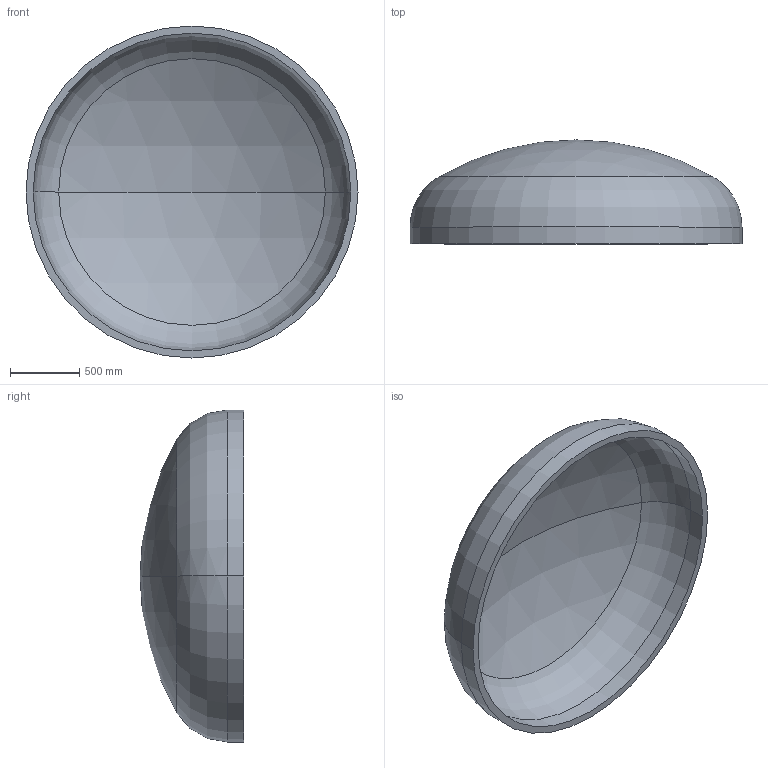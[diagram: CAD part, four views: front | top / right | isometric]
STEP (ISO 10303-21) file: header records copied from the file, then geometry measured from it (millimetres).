
FILE_DESCRIPTION (( 'STEP AP203' ), '1' );
FILE_NAME ('DIN 28013 Korbbogenform_-_Boden DIN 28013 - 2400 x 120 - I - s=52.step', '2016-07-01T15:27:18', ( '' ), ( '' ), 'SwSTEP 2.0', 'SolidWorks 2013', '' );
FILE_SCHEMA (( 'CONFIG_CONTROL_DESIGN' ));
Length unit declared in the file: millimetre
Products named in the file (1): DIN 28013 Korbbogenform_-_Boden DIN 28013 - 2400 x 120 - I - s=52
Bounding box: 2400 x 751.4 x 2400 mm (x, y, z)
Volume: 362753346.3 mm3; surface area: 14341286.4 mm2
Topology: 1 solids, 1 shells, 13 faces, 24 edges, 14 vertices
Faces by surface type: torus 4, cylinder 4, sphere 4, plane 1
Entity records: 407 total; most frequent: DIRECTION 72, CARTESIAN_POINT 52, ORIENTED_EDGE 48, AXIS2_PLACEMENT_3D 34, EDGE_CURVE 24, CIRCLE 20, VERTEX_POINT 14, EDGE_LOOP 14
